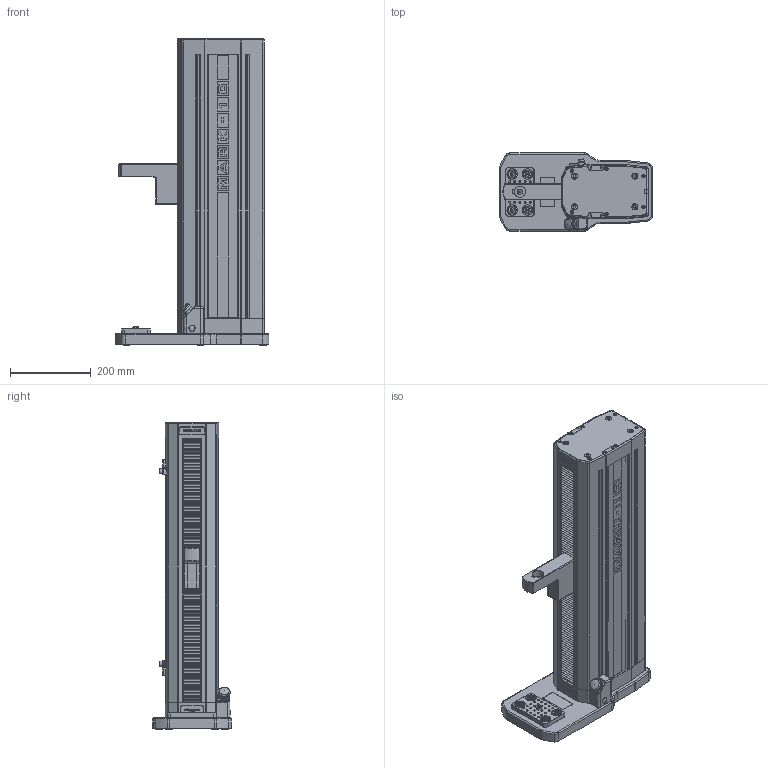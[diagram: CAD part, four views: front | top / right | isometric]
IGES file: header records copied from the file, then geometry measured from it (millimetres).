
Global section: file name: F105, F305, F505 IM; native system: Autodesk RealDWG; preprocessor: Autodesk Translation Framework DWG producer (atf_dwg_producer); organization: unknown; date: 20210205.154124; units: inch
Bounding box: 379.73 x 193.04 x 758.05 mm (x, y, z)
Volume: 20753676.8 mm3; surface area: 1298133.9 mm2
Topology: 14 solids, 19 shells, 9200 faces, 25434 edges, 16862 vertices
Faces by surface type: bspline 9200
